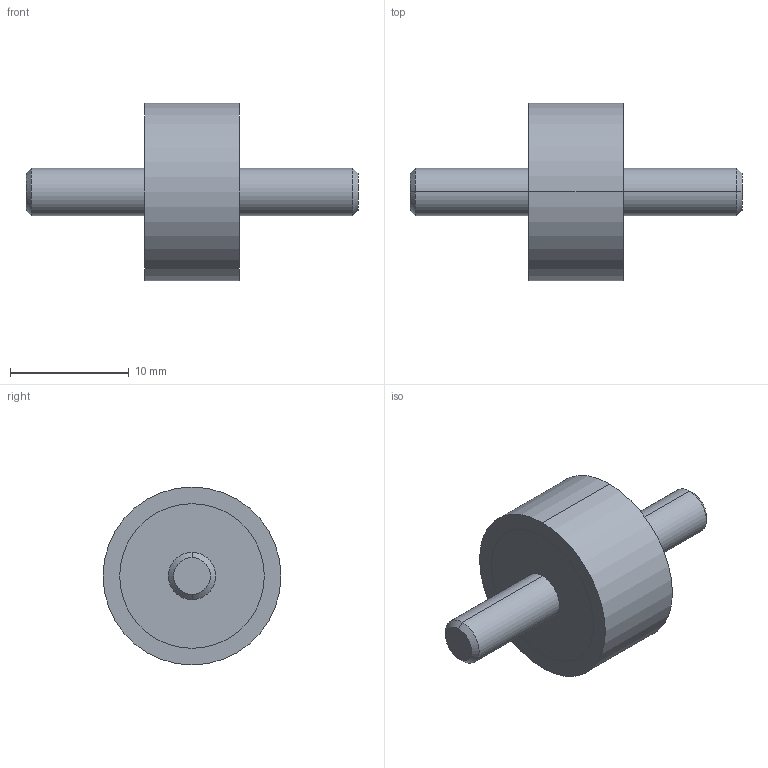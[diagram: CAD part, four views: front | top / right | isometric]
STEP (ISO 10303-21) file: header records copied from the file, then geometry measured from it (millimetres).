
FILE_DESCRIPTION (( 'STEP AP214' ), '1' );
FILE_NAME ('351-15-8-M4-SS-40.step', '2025-07-23T10:00:32', ( '' ), ( '' ), 'SwSTEP 2.0', 'SolidWorks 2022', '' );
FILE_SCHEMA (( 'AUTOMOTIVE_DESIGN' ));
Length unit declared in the file: millimetre
Products named in the file (1): 351-15-8-M4-SS-40
Bounding box: 28 x 15 x 15 mm (x, y, z)
Volume: 1660.6 mm3; surface area: 975.6 mm2
Topology: 1 solids, 1 shells, 20 faces, 38 edges, 24 vertices
Faces by surface type: cylinder 10, plane 6, cone 4
Entity records: 636 total; most frequent: DIRECTION 104, CARTESIAN_POINT 83, ORIENTED_EDGE 76, AXIS2_PLACEMENT_3D 45, EDGE_CURVE 38, EDGE_LOOP 24, VERTEX_POINT 24, CIRCLE 24
